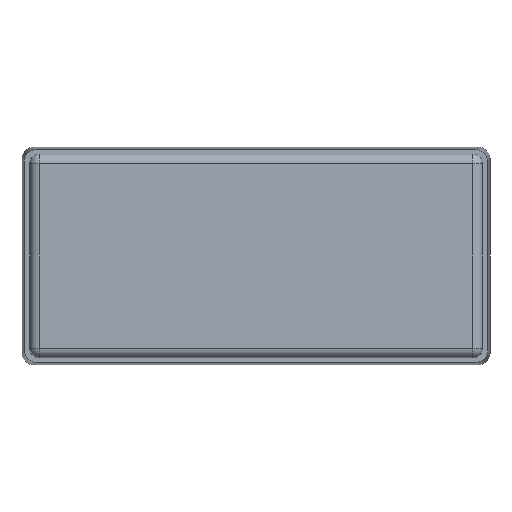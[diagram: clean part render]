
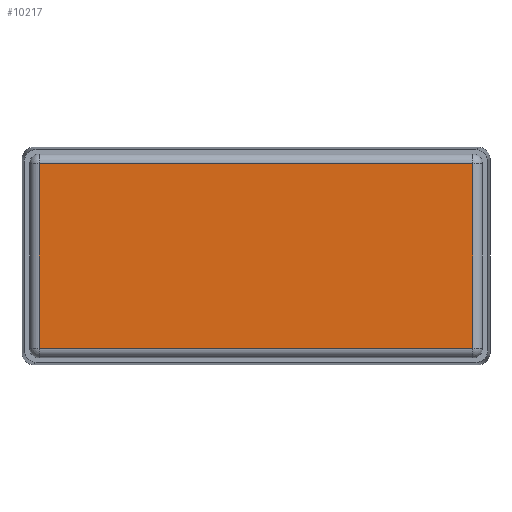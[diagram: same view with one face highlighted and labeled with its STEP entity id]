
A CAD part, front view. The second image highlights one B-rep face of the part: STEP entity #10217.
In plain terms, the highlighted planar face has unit normal (0, -1, 0).
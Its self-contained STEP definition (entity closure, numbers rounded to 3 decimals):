
#280 = CARTESIAN_POINT ( 'NONE',  ( -55.8, -27.4, -23.75 ) ) ;
#665 = ORIENTED_EDGE ( 'NONE', *, *, #2327, .T. ) ;
#914 = VERTEX_POINT ( 'NONE', #3762 ) ;
#936 = ORIENTED_EDGE ( 'NONE', *, *, #11210, .T. ) ;
#1351 = PLANE ( 'NONE',  #3742 ) ;
#1511 = VECTOR ( 'NONE', #3087, 1000. ) ;
#1695 = CARTESIAN_POINT ( 'NONE',  ( -55.8, -27.4, -23.75 ) ) ;
#2327 = EDGE_CURVE ( 'NONE', #3049, #914, #6940, .T. ) ;
#2845 = FACE_OUTER_BOUND ( 'NONE', #13523, .T. ) ;
#3049 = VERTEX_POINT ( 'NONE', #13255 ) ;
#3060 = DIRECTION ( 'NONE',  ( 0., 0., 1. ) ) ;
#3087 = DIRECTION ( 'NONE',  ( 1., 0., 0. ) ) ;
#3730 = EDGE_CURVE ( 'NONE', #8025, #10191, #4931, .T. ) ;
#3742 = AXIS2_PLACEMENT_3D ( 'NONE', #8703, #4518, #11871 ) ;
#3762 = CARTESIAN_POINT ( 'NONE',  ( 55.8, -27.4, 23.75 ) ) ;
#3827 = DIRECTION ( 'NONE',  ( 0., 0., -1. ) ) ;
#4160 = VECTOR ( 'NONE', #3060, 1000. ) ;
#4342 = LINE ( 'NONE', #8610, #9610 ) ;
#4518 = DIRECTION ( 'NONE',  ( 0., 1., 0. ) ) ;
#4931 = LINE ( 'NONE', #1695, #7079 ) ;
#6940 = LINE ( 'NONE', #11768, #4160 ) ;
#7079 = VECTOR ( 'NONE', #3827, 1000. ) ;
#8025 = VERTEX_POINT ( 'NONE', #11332 ) ;
#8397 = ORIENTED_EDGE ( 'NONE', *, *, #3730, .T. ) ;
#8610 = CARTESIAN_POINT ( 'NONE',  ( -55.8, -27.4, 23.75 ) ) ;
#8703 = CARTESIAN_POINT ( 'NONE',  ( 0., -27.4, 0. ) ) ;
#9375 = CARTESIAN_POINT ( 'NONE',  ( 55.8, -27.4, -23.75 ) ) ;
#9610 = VECTOR ( 'NONE', #9629, 1000. ) ;
#9629 = DIRECTION ( 'NONE',  ( -1., 0., 0. ) ) ;
#9892 = LINE ( 'NONE', #9375, #1511 ) ;
#10191 = VERTEX_POINT ( 'NONE', #280 ) ;
#10217 = ADVANCED_FACE ( 'NONE', ( #2845 ), #1351, .F. ) ;
#11210 = EDGE_CURVE ( 'NONE', #914, #8025, #4342, .T. ) ;
#11332 = CARTESIAN_POINT ( 'NONE',  ( -55.8, -27.4, 23.75 ) ) ;
#11768 = CARTESIAN_POINT ( 'NONE',  ( 55.8, -27.4, 23.75 ) ) ;
#11871 = DIRECTION ( 'NONE',  ( 0., 0., 1. ) ) ;
#12025 = EDGE_CURVE ( 'NONE', #10191, #3049, #9892, .T. ) ;
#13225 = ORIENTED_EDGE ( 'NONE', *, *, #12025, .T. ) ;
#13255 = CARTESIAN_POINT ( 'NONE',  ( 55.8, -27.4, -23.75 ) ) ;
#13523 = EDGE_LOOP ( 'NONE', ( #13225, #665, #936, #8397 ) ) ;
